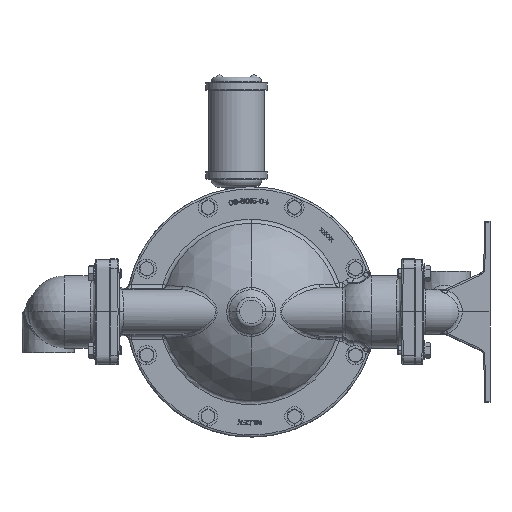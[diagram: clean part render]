
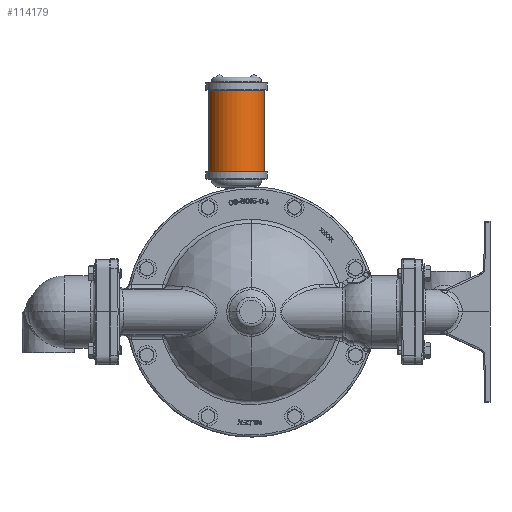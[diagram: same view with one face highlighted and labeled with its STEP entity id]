
A CAD part, left-side view. The second image highlights one B-rep face of the part: STEP entity #114179.
In plain terms, the highlighted cylindrical face has radius 39.243 mm (diameter 78.486 mm), a partial arc.
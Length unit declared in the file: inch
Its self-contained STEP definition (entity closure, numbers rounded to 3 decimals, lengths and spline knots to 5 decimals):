
#13410 = DIRECTION ( 'NONE',  ( 0., 0., 1. ) ) ;
#15085 = EDGE_LOOP ( 'NONE', ( #123871, #202303, #288870, #51288 ) ) ;
#17880 = CARTESIAN_POINT ( 'NONE',  ( -0.005, 0.806, 7.781 ) ) ;
#29597 = EDGE_CURVE ( 'NONE', #71249, #298019, #113557, .T. ) ;
#33541 = VERTEX_POINT ( 'NONE', #135006 ) ;
#42343 = EDGE_CURVE ( 'NONE', #71249, #212751, #108710, .T. ) ;
#51288 = ORIENTED_EDGE ( 'NONE', *, *, #42343, .F. ) ;
#56655 = DIRECTION ( 'NONE',  ( 0., -1., 0. ) ) ;
#58643 = DIRECTION ( 'NONE',  ( 0., 0., 1. ) ) ;
#65656 = CARTESIAN_POINT ( 'NONE',  ( -0.005, -0.739, 7.781 ) ) ;
#68539 = VECTOR ( 'NONE', #13410, 39.37008 ) ;
#71249 = VERTEX_POINT ( 'NONE', #292500 ) ;
#92290 = EDGE_CURVE ( 'NONE', #212751, #33541, #283454, .T. ) ;
#108710 = LINE ( 'NONE', #132147, #68539 ) ;
#109661 = CARTESIAN_POINT ( 'NONE',  ( -0.005, 2.351, 12.26 ) ) ;
#113557 = CIRCLE ( 'NONE', #183364, 1.545 ) ;
#114179 = ADVANCED_FACE ( 'NONE', ( #198842 ), #294106, .T. ) ;
#116282 = DIRECTION ( 'NONE',  ( 0., 1., 0. ) ) ;
#121754 = AXIS2_PLACEMENT_3D ( 'NONE', #175389, #270669, #56655 ) ;
#123871 = ORIENTED_EDGE ( 'NONE', *, *, #29597, .T. ) ;
#126153 = DIRECTION ( 'NONE',  ( 0., 0., 1. ) ) ;
#132147 = CARTESIAN_POINT ( 'NONE',  ( -0.005, 2.351, 7.781 ) ) ;
#135006 = CARTESIAN_POINT ( 'NONE',  ( -0.005, -0.739, 12.26 ) ) ;
#175389 = CARTESIAN_POINT ( 'NONE',  ( -0.005, 0.806, 13.285 ) ) ;
#183364 = AXIS2_PLACEMENT_3D ( 'NONE', #17880, #306822, #116282 ) ;
#198842 = FACE_OUTER_BOUND ( 'NONE', #15085, .T. ) ;
#202303 = ORIENTED_EDGE ( 'NONE', *, *, #268449, .T. ) ;
#212751 = VERTEX_POINT ( 'NONE', #109661 ) ;
#216854 = CARTESIAN_POINT ( 'NONE',  ( -0.005, 0.806, 12.26 ) ) ;
#243579 = AXIS2_PLACEMENT_3D ( 'NONE', #216854, #126153, #246414 ) ;
#246414 = DIRECTION ( 'NONE',  ( 0., 1., 0. ) ) ;
#250787 = CARTESIAN_POINT ( 'NONE',  ( -0.005, -0.739, 7.781 ) ) ;
#262925 = VECTOR ( 'NONE', #58643, 39.37008 ) ;
#268449 = EDGE_CURVE ( 'NONE', #298019, #33541, #296085, .T. ) ;
#270669 = DIRECTION ( 'NONE',  ( 0., 0., -1. ) ) ;
#283454 = CIRCLE ( 'NONE', #243579, 1.545 ) ;
#288870 = ORIENTED_EDGE ( 'NONE', *, *, #92290, .F. ) ;
#292500 = CARTESIAN_POINT ( 'NONE',  ( -0.005, 2.351, 7.781 ) ) ;
#294106 = CYLINDRICAL_SURFACE ( 'NONE', #121754, 1.545 ) ;
#296085 = LINE ( 'NONE', #250787, #262925 ) ;
#298019 = VERTEX_POINT ( 'NONE', #65656 ) ;
#306822 = DIRECTION ( 'NONE',  ( 0., 0., 1. ) ) ;
